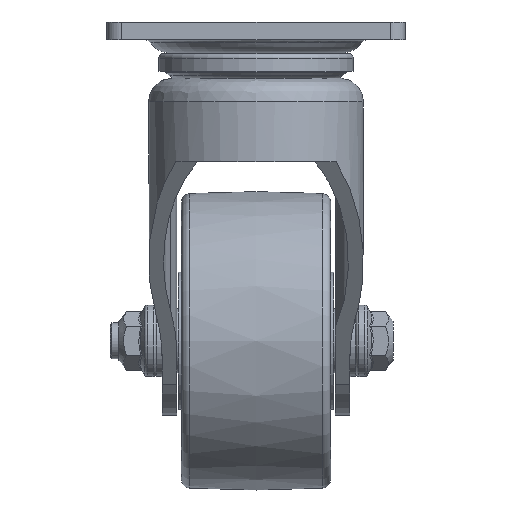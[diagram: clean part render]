
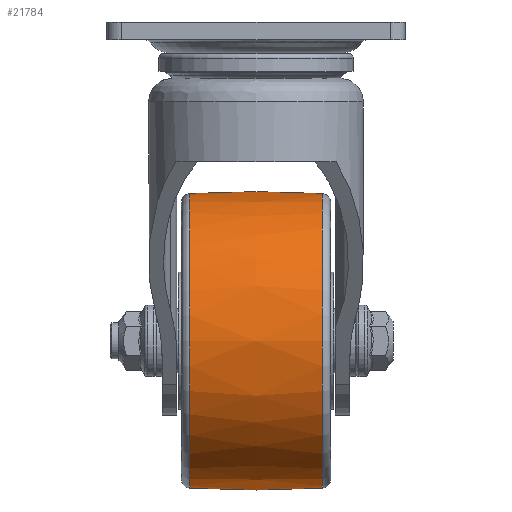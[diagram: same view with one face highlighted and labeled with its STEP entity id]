
A CAD part, left-side view. The second image highlights one B-rep face of the part: STEP entity #21784.
In plain terms, the highlighted free-form (B-spline) face has degree [2, 2] with [3, 9] control points.
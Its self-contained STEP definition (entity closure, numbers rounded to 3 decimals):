
#21723=CARTESIAN_POINT('',(50.,-22.166,-154.195));
#21724=VERTEX_POINT('',#21723);
#21725=CARTESIAN_POINT('',(50.,-22.166,-104.81));
#21726=DIRECTION('',(0.0,-1.0,0.0));
#21727=DIRECTION('',(0.0,0.0,-1.0));
#21728=AXIS2_PLACEMENT_3D('',#21725,#21726,#21727);
#21729=CIRCLE('',#21728,49.385);
#21730=EDGE_CURVE('',#21724,#21724,#21729,.T.);
#21735=CARTESIAN_POINT('',(50.,22.166,-55.425));
#21736=CARTESIAN_POINT('',(50.,0.,-54.194));
#21737=CARTESIAN_POINT('',(50.,-22.166,-55.425));
#21738=CARTESIAN_POINT('',(99.385,22.166,-55.425));
#21739=CARTESIAN_POINT('',(100.616,0.,-54.194));
#21740=CARTESIAN_POINT('',(99.385,-22.166,-55.425));
#21741=CARTESIAN_POINT('',(99.385,22.166,-104.81));
#21742=CARTESIAN_POINT('',(100.616,0.,-104.81));
#21743=CARTESIAN_POINT('',(99.385,-22.166,-104.81));
#21744=CARTESIAN_POINT('',(99.385,22.166,-154.195));
#21745=CARTESIAN_POINT('',(100.616,0.,-155.426));
#21746=CARTESIAN_POINT('',(99.385,-22.166,-154.195));
#21747=CARTESIAN_POINT('',(50.,22.166,-154.195));
#21748=CARTESIAN_POINT('',(50.,0.,-155.426));
#21749=CARTESIAN_POINT('',(50.,-22.166,-154.195));
#21750=CARTESIAN_POINT('',(0.615,22.166,-154.195));
#21751=CARTESIAN_POINT('',(-0.616,0.,-155.426));
#21752=CARTESIAN_POINT('',(0.615,-22.166,-154.195));
#21753=CARTESIAN_POINT('',(0.615,22.166,-104.81));
#21754=CARTESIAN_POINT('',(-0.616,0.,-104.81));
#21755=CARTESIAN_POINT('',(0.615,-22.166,-104.81));
#21756=CARTESIAN_POINT('',(0.615,22.166,-55.425));
#21757=CARTESIAN_POINT('',(-0.616,0.,-54.194));
#21758=CARTESIAN_POINT('',(0.615,-22.166,-55.425));
#21759=CARTESIAN_POINT('',(50.,22.166,-55.425));
#21760=CARTESIAN_POINT('',(50.,0.,-54.194));
#21761=CARTESIAN_POINT('',(50.,-22.166,-55.425));
#21769=(BOUNDED_SURFACE()B_SPLINE_SURFACE(2,2,((#21735,#21738,#21741,#21744,#21747,#21750,#21753,#21756,#21759),(#21736,#21739,#21742,#21745,#21748,#21751,#21754,#21757,#21760),(#21737,#21740,#21743,#21746,#21749,#21752,#21755,#21758,#21761)),.UNSPECIFIED.,.F.,.T.,.U.)B_SPLINE_SURFACE_WITH_KNOTS((3,3),(3,2,2,2,3),(-0.055,0.055),(0.0,1.571,3.142,4.712,6.283),.UNSPECIFIED.)GEOMETRIC_REPRESENTATION_ITEM()RATIONAL_B_SPLINE_SURFACE(((1.0,0.707,1.0,0.707,1.0,0.707,1.0,0.707,1.0),(0.998,0.706,0.998,0.706,0.998,0.706,0.998,0.706,0.998),(1.0,0.707,1.0,0.707,1.0,0.707,1.0,0.707,1.0)))REPRESENTATION_ITEM('')SURFACE());
#21770=ORIENTED_EDGE('',*,*,#21730,.F.);
#21771=EDGE_LOOP('',(#21770));
#21772=FACE_OUTER_BOUND('',#21771,.T.);
#21773=CARTESIAN_POINT('',(50.,22.166,-154.195));
#21774=VERTEX_POINT('',#21773);
#21775=CARTESIAN_POINT('',(50.,22.166,-104.81));
#21776=DIRECTION('',(0.0,1.0,0.0));
#21777=DIRECTION('',(0.0,0.0,-1.0));
#21778=AXIS2_PLACEMENT_3D('',#21775,#21776,#21777);
#21779=CIRCLE('',#21778,49.385);
#21780=EDGE_CURVE('',#21774,#21774,#21779,.T.);
#21781=ORIENTED_EDGE('',*,*,#21780,.F.);
#21782=EDGE_LOOP('',(#21781));
#21783=FACE_BOUND('',#21782,.T.);
#21784=ADVANCED_FACE('',(#21772,#21783),#21769,.T.);
